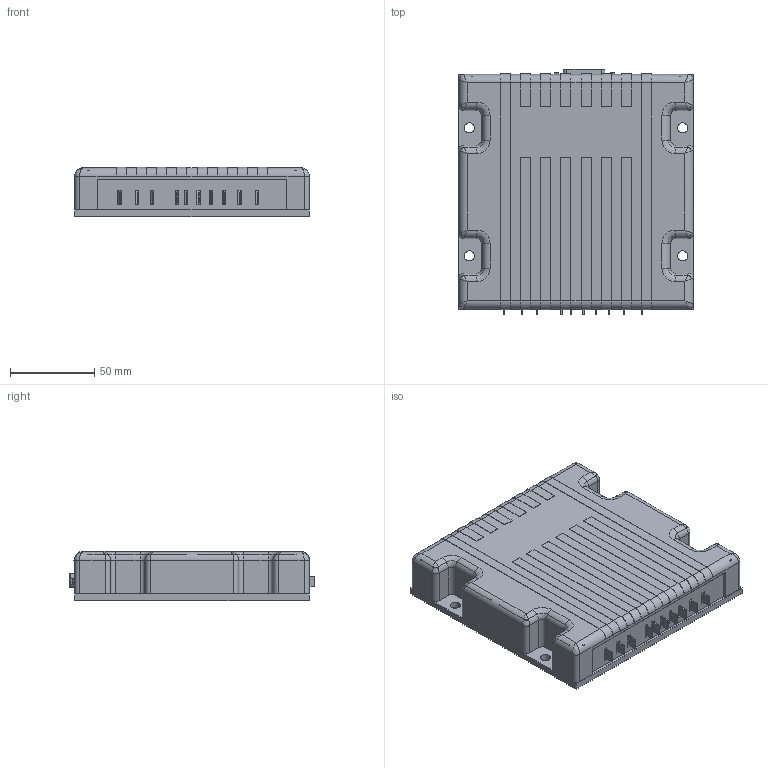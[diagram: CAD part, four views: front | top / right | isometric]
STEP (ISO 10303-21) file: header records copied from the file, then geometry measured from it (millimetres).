
FILE_DESCRIPTION((''),'2;1');
FILE_NAME('PLATE_PCB_COVER_ASM','2013-05-15T',('Cosma'),(''),'PRO/ENGINEER BY PARAMETRIC TECHNOLOGY CORPORATION, 2007450','PRO/ENGINEER BY PARAMETRIC TECHNOLOGY CORPORATION, 2007450','');
FILE_SCHEMA(('CONFIG_CONTROL_DESIGN'));
Length unit declared in the file: millimetre
Products named in the file (13): BOTTOM_PLATE; NEW-PCB; MICROFIT-CKTS-6; D_SUB; LIGHT_PIPE_3; USB-TYPE-B; CAPACITOR; QUICK-FIT-4966; NEWEST_PCB_ASS_ASM; COVER_2; PLATE_FRONT; PLATE_BACK; PLATE_PCB_COVER_ASM
Assembly tree (25 placements, depth 3):
  PLATE_PCB_COVER_ASM
    BOTTOM_PLATE
    NEWEST_PCB_ASS_ASM
      NEW-PCB
      MICROFIT-CKTS-6
      D_SUB
      LIGHT_PIPE_3
      USB-TYPE-B
      CAPACITOR  x5
      QUICK-FIT-4966  x10
    COVER_2
    PLATE_FRONT
    PLATE_BACK
Bounding box: 139.7 x 146.06 x 29.3 mm (x, y, z)
Volume: 172731.9 mm3; surface area: 164323.4 mm2
Topology: 24 solids, 33 shells, 1387 faces, 3597 edges, 2325 vertices
Faces by surface type: plane 822, cylinder 507, cone 26, torus 18, bspline 12, sphere 2
Entity records: 34668 total; most frequent: CARTESIAN_POINT 6851, DIRECTION 5834, ORIENTED_EDGE 5594, EDGE_CURVE 2815, AXIS2_PLACEMENT_3D 1982, VECTOR 1870, LINE 1870, VERTEX_POINT 1824
